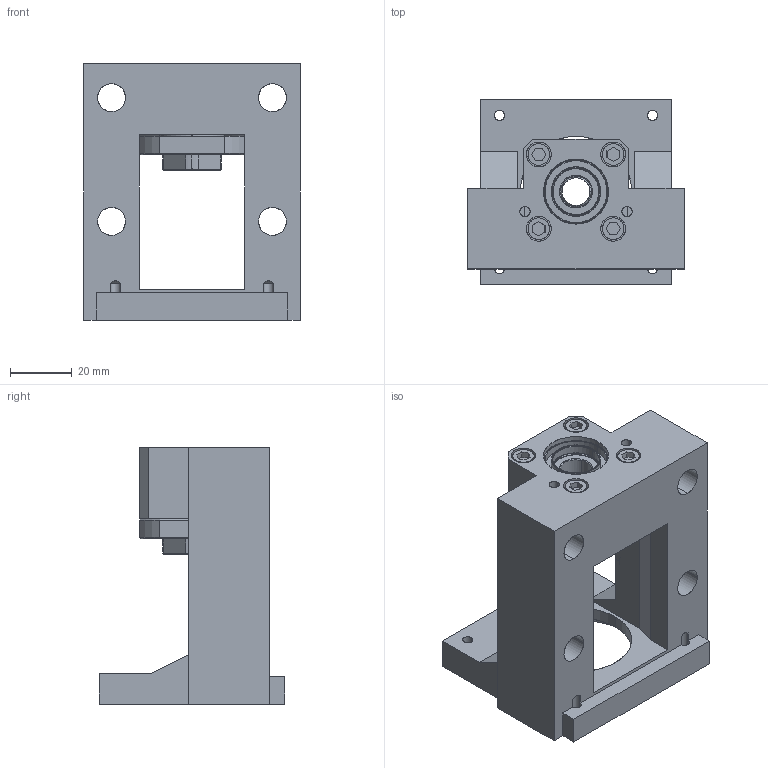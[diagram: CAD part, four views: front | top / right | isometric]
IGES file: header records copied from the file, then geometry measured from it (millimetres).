
Start section: SolidWorks IGES file using analytic representation for surfaces
Global section: file name: C:\Users\117\Desktop\1061208網站3D圖檔問題處理\傳動座\整合型\MBCE\MBCE10-DP.IGS,15HSolidWorks; native system: 2017; preprocessor: SolidWorks 2017; author: 117; date: 171228.152355; units: millimetre
Bounding box: 70 x 60 x 83 mm (x, y, z)
Surface area: 34694 mm2 (no closed solid volume)
Topology: 0 solids, 0 shells, 240 faces, 3653 edges, 3653 vertices
Faces by surface type: revolution 124, bspline 116
